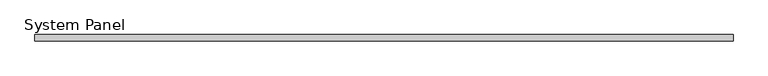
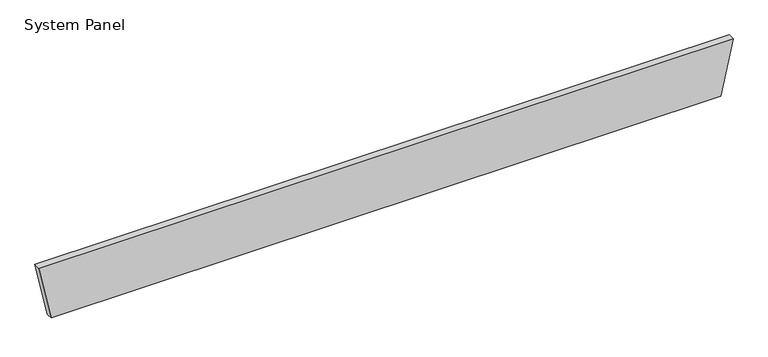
"""IFC4 building model written with IfcOpenShell, lengths in millimetres: plate geometry, System Panel : MetecnoPanel_125mm_Plain_Surfmist."""

from ifc_helpers import new_model, si_unit, frame, origin, place, context, project, spatial, polyline, outline, extrude, source, transform, mapped, element, save


def system_panel_a37b50f9(model_context):
    return source(origin(), model_context, "Body", "SweptSolid", [
        extrude(outline(polyline([(0.0, -6478.2647134), (0.0, 6478.2647134), (1100.0, 6717.3970701), (1100.0, -6717.3970701), (0.0, -6478.2647134)])), frame((0.0, -125.0, 0.0), z_axis=(0.0, 1.0, 0.0), x_axis=(0.0, 0.0, 1.0)), (0.0, 0.0, 1.0), 125.0),
    ])


if __name__ == "__main__":
    model = new_model("IFC4")
    model_context = context("Model", 3, world=origin())
    ifc_project = project(units=[si_unit("LENGTHUNIT", "METRE", prefix="MILLI")], contexts=[model_context])
    site = spatial("IfcSite", under=ifc_project)
    building = spatial("IfcBuilding", under=site)
    placement = place(None, origin())
    system_panel_shape = system_panel_a37b50f9(model_context)
    element("IfcPlate", 1, ObjectType="System Panel : MetecnoPanel_125mm_Plain_Surfmist", at=placement, inside=building, context=model_context, shape_type="MappedRepresentation", body=[
        mapped(system_panel_shape, transform((0.0, 0.0, 0.0), x_axis=(1.0, 0.0, 0.0), y_axis=(0.0, 1.0, 0.0), z_axis=(0.0, 0.0, 1.0))),
    ])
    save(model, "model.ifc")
